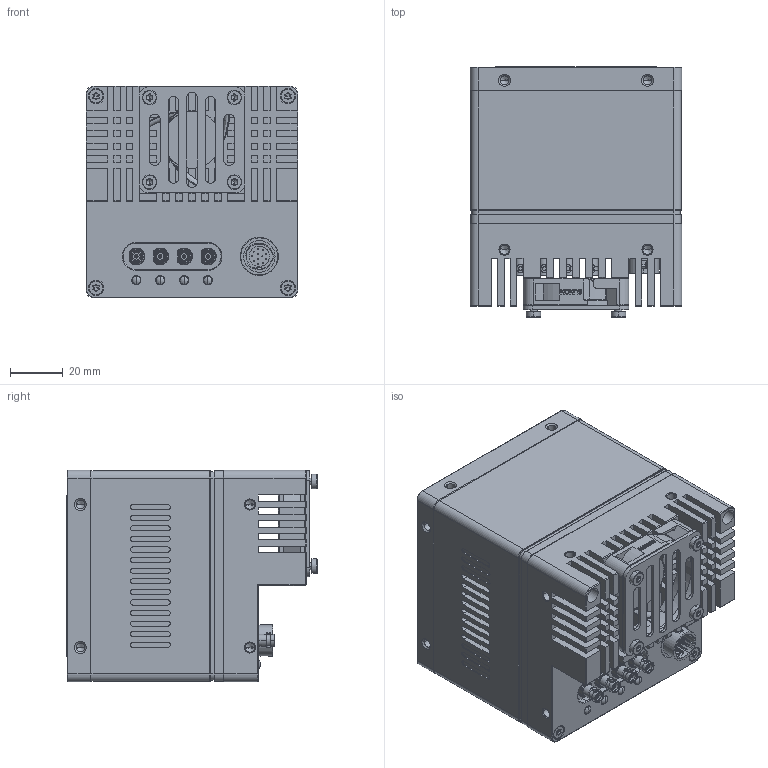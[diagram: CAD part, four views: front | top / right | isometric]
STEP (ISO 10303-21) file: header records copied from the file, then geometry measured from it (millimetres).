
FILE_DESCRIPTION((''),'2;1');
FILE_NAME('DH3-2632-6009_1','2023-12-01T15:29:10',('309376'),(''),'CREO PARAMETRIC BY PTC INC, 2020184','CREO PARAMETRIC BY PTC INC, 2020184','');
FILE_SCHEMA(('CONFIG_CONTROL_DESIGN'));
Products named in the file (1): DH3-2632-6009_1
Bounding box: 80 x 94.51 x 80 mm (x, y, z)
Volume: 439180.1 mm3; surface area: 105893.1 mm2
Topology: 1 solids, 56 shells, 3031 faces, 8179 edges, 5273 vertices
Faces by surface type: plane 1449, cylinder 1010, cone 401, torus 86, bspline 72, sphere 8, extrusion 5
Entity records: 106223 total; most frequent: CARTESIAN_POINT 29319, DIRECTION 16259, ORIENTED_EDGE 16094, EDGE_CURVE 8047, AXIS2_PLACEMENT_3D 5946, VERTEX_POINT 5273, VECTOR 4367, LINE 4362
